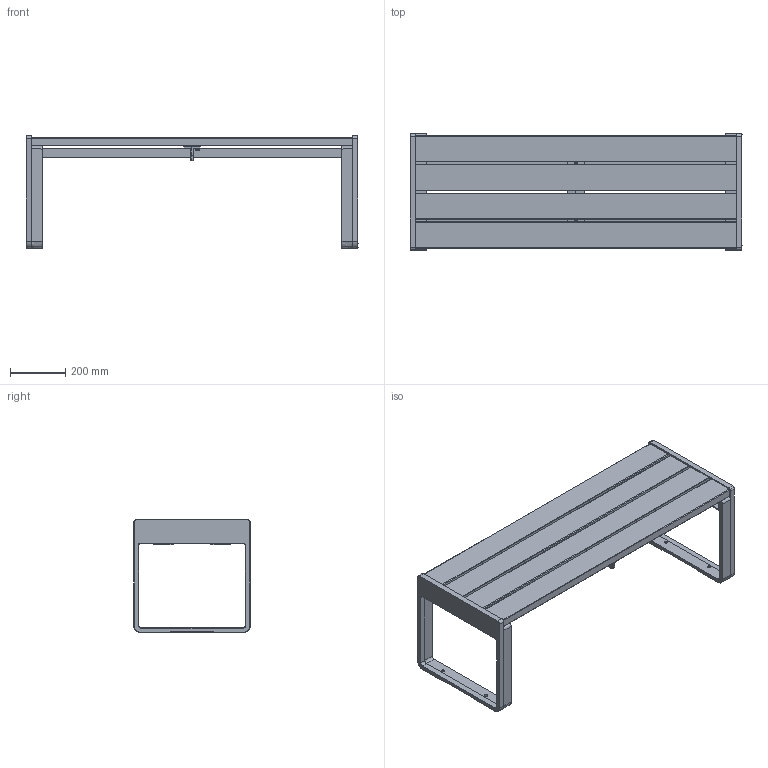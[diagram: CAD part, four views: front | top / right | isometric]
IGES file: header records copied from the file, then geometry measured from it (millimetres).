
Global section: file name: 02フラットベンチFB32-12,35HAutoCAD 20; native system: 25 - 日本語 (Japanese); preprocessor: Autodesk Translation Framework DWG producer (atf_dwg_producer); organization: unknown; date: 20250107.173334; units: millimetre
Bounding box: 1200 x 421.8 x 407.22 mm (x, y, z)
Volume: 18406632.3 mm3; surface area: 4540649.8 mm2
Topology: 71 solids, 71 shells, 1288 faces, 3164 edges, 1962 vertices
Faces by surface type: bspline 1288
